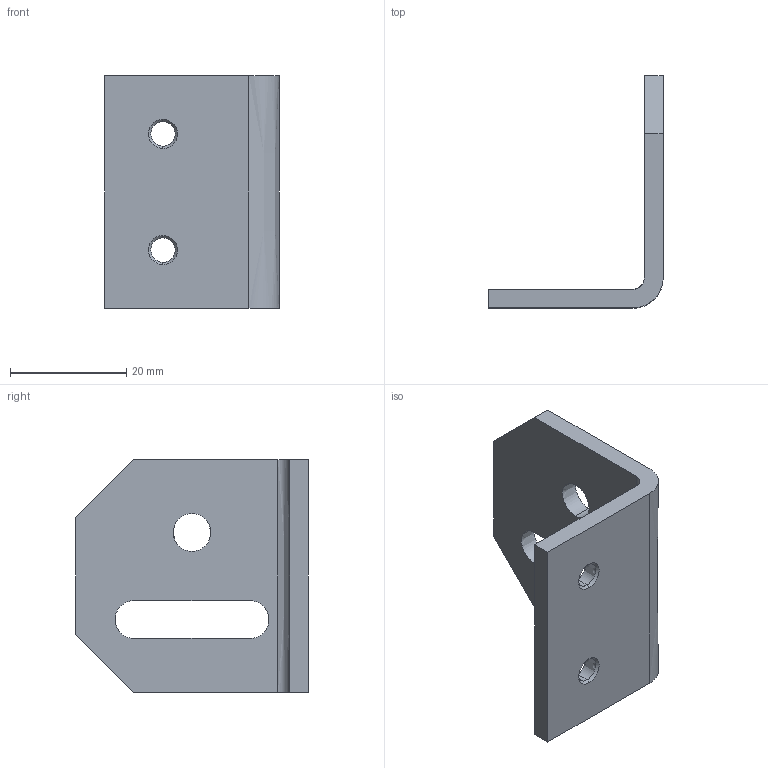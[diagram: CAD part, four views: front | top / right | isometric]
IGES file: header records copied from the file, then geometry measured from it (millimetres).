
Start section:  PTC IGES file: 370790_cp-019r.igs
Global section: file name: 370790_cp-019r.igs; native system: Pro/ENGINEER by Parametric Technology Corporation; preprocessor: 2004090; author: KAIHATSU01; organization: Unknown; date: 061017.111359; units: millimetre
Bounding box: 30 x 40 x 40 mm (x, y, z)
Volume: 7309.7 mm3; surface area: 5540.2 mm2
Topology: 1 solids, 1 shells, 30 faces, 76 edges, 48 vertices
Faces by surface type: bspline 30
